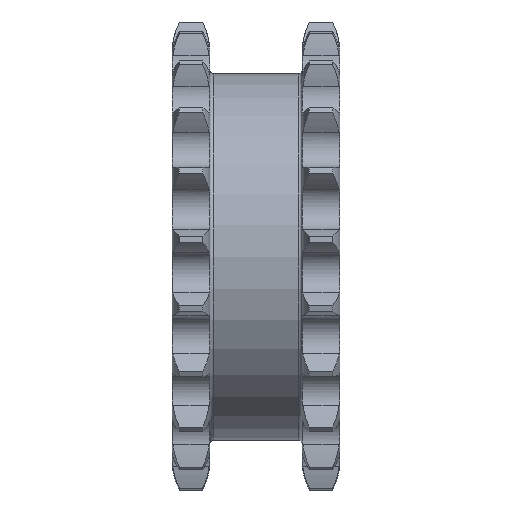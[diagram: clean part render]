
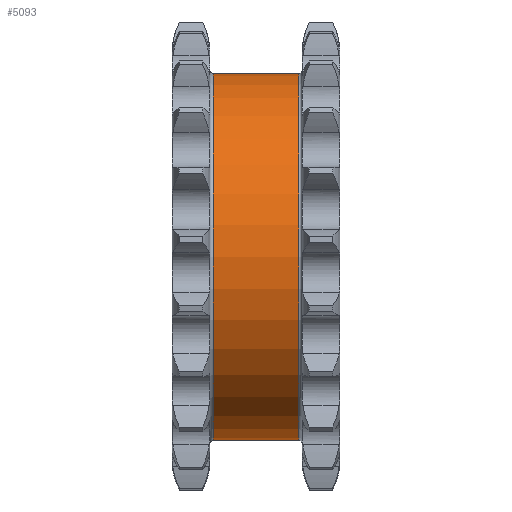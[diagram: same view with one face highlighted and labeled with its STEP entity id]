
A CAD part, top view. The second image highlights one B-rep face of the part: STEP entity #5093.
In plain terms, the highlighted cylindrical face has radius 35 mm (diameter 70 mm), a full revolution.
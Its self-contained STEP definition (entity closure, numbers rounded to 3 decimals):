
#19=FACE_BOUND('',#980,.T.);
#710=FACE_OUTER_BOUND('',#979,.T.);
#979=EDGE_LOOP('',(#4599));
#980=EDGE_LOOP('',(#4600));
#1250=CIRCLE('',#5622,35.);
#1251=CIRCLE('',#5624,35.);
#2199=VERTEX_POINT('',#10350);
#2200=VERTEX_POINT('',#10353);
#3017=EDGE_CURVE('',#2199,#2199,#1250,.T.);
#3018=EDGE_CURVE('',#2200,#2200,#1251,.T.);
#4599=ORIENTED_EDGE('',*,*,#3017,.T.);
#4600=ORIENTED_EDGE('',*,*,#3018,.F.);
#4832=CYLINDRICAL_SURFACE('',#5623,35.);
#5093=ADVANCED_FACE('',(#710,#19),#4832,.T.);
#5622=AXIS2_PLACEMENT_3D('',#10351,#6845,#6846);
#5623=AXIS2_PLACEMENT_3D('',#10352,#6847,#6848);
#5624=AXIS2_PLACEMENT_3D('',#10354,#6849,#6850);
#6845=DIRECTION('center_axis',(-1.,0.,0.));
#6846=DIRECTION('ref_axis',(0.,0.,1.));
#6847=DIRECTION('center_axis',(-1.,0.,0.));
#6848=DIRECTION('ref_axis',(0.,-1.,0.));
#6849=DIRECTION('center_axis',(-1.,0.,0.));
#6850=DIRECTION('ref_axis',(0.,0.,1.));
#10350=CARTESIAN_POINT('',(15.26,-1.868,0.));
#10351=CARTESIAN_POINT('Origin',(15.26,33.132,0.));
#10352=CARTESIAN_POINT('Origin',(7.06,33.132,0.));
#10353=CARTESIAN_POINT('',(-1.14,-1.868,0.));
#10354=CARTESIAN_POINT('Origin',(-1.14,33.132,0.));
